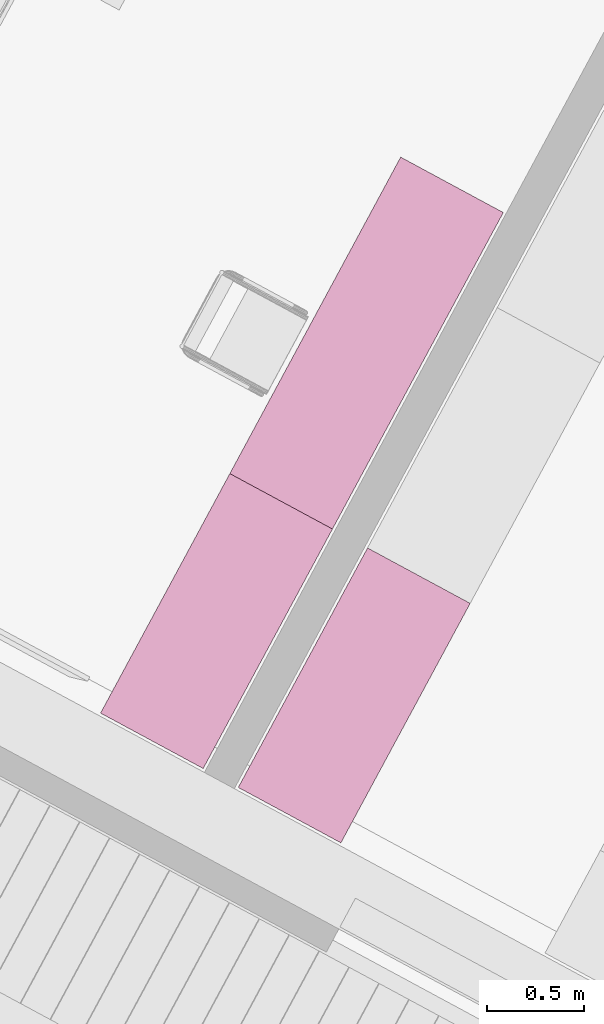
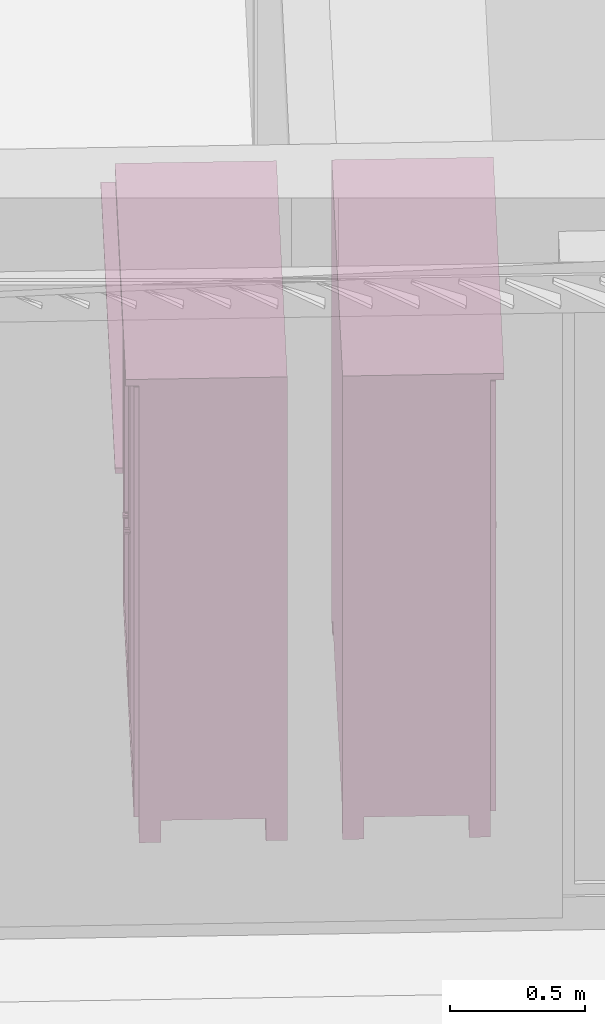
# One storey, part 29 of 41: 3 furnishings.
"""IFC2X3 building model written with IfcOpenShell, lengths in metres."""

from ifc_helpers import new_model, entity, si_unit, converted_unit, derived_unit, money_unit, direction, frame, origin_with_axes, place, context, subcontext, project, spatial, faceted_brep, type_object, element, save


model = new_model("IFC2X3")

# Units and contexts
model_context = context("Model", 3, precision=1e-05, world=origin_with_axes(), true_north=direction((0.0, 1.0)))
body_context = subcontext(model_context, "Body", "Model", "MODEL_VIEW")
ifc_project = project(units=[si_unit("LENGTHUNIT", "METRE"), si_unit("AREAUNIT", "SQUARE_METRE"), si_unit("VOLUMEUNIT", "CUBIC_METRE"), converted_unit("PLANEANGLEUNIT", "DEGREE", entity("IfcPlaneAngleMeasure", 0.0174532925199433), si_unit("PLANEANGLEUNIT", "RADIAN"), dimensions=[0, 0, 0, 0, 0, 0, 0]), money_unit("EUR"), converted_unit("TIMEUNIT", "Year", entity("IfcTimeMeasure", 31556926.0), si_unit("TIMEUNIT", "SECOND"), dimensions=[0, 0, 1, 0, 0, 0, 0]), si_unit("MASSUNIT", "GRAM", prefix="KILO"), si_unit("THERMODYNAMICTEMPERATUREUNIT", "DEGREE_CELSIUS"), si_unit("LUMINOUSINTENSITYUNIT", "LUMEN"), si_unit("ENERGYUNIT", "JOULE", prefix="MEGA"), derived_unit("THERMALCONDUCTANCEUNIT", [(si_unit("POWERUNIT", "WATT"), 1), (si_unit("LENGTHUNIT", "METRE"), -1), (si_unit("THERMODYNAMICTEMPERATUREUNIT", "KELVIN"), -1)]), derived_unit("SPECIFICHEATCAPACITYUNIT", [(si_unit("ENERGYUNIT", "JOULE"), 1), (si_unit("MASSUNIT", "GRAM", prefix="KILO"), -1), (si_unit("THERMODYNAMICTEMPERATUREUNIT", "KELVIN"), -1)]), derived_unit("MASSDENSITYUNIT", [(si_unit("MASSUNIT", "GRAM", prefix="KILO"), 1), (si_unit("VOLUMEUNIT", "CUBIC_METRE"), -1)])], contexts=[model_context])

# Site, building, storey
site_placement = place(None, frame((-3.949935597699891, 1.740105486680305, 0.0), z_axis=(0.0, 0.0, 1.0), x_axis=(0.8799804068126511, -0.475009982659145, 0.0)))
site = spatial("IfcSite", under=ifc_project, at=site_placement, Name="Gelände", CompositionType="ELEMENT")
building_placement = place(site_placement, origin_with_axes())
building = spatial("IfcBuilding", under=site, at=building_placement, Name="Gebäude", CompositionType="ELEMENT")
storey_placement = place(building_placement, frame((0.0, 0.0, 4.55), z_axis=(0.0, 0.0, 1.0), x_axis=(1.0, 0.0, 0.0)))
storey = spatial("IfcBuildingStorey", under=building, at=storey_placement, Name="Staffelgeschoss", CompositionType="ELEMENT", Elevation=4.55)

# Furnishings
furniture_type_1 = type_object("IfcFurnitureType", Name="Kleiderschrank 22", AssemblyPlace="NOTDEFINED")
furnishing_1_placement = place(storey_placement, frame((10.81819561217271, 3.039987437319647, 0.0), z_axis=(0.0, 0.0, 1.0), x_axis=(0.0, -1.0, 0.0)))
element("IfcFurnishingElement", 1, at=furnishing_1_placement, inside=storey, type_object=furniture_type_1, Name="Objekt-0066", ObjectType="FURNITURE", context=body_context, shape_type="Brep", body=[
    faceted_brep([(0.02000000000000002, 0.6000000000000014, 0.12), (0.02000000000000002, 0.5800000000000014, 0.12), (0.02000000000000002, 0.5800000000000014, 2.05), (0.02000000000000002, 0.6000000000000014, 2.05), (1.38, 0.6000000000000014, 0.12), (1.38, 0.5800000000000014, 0.12), (1.38, 0.5800000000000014, 2.05), (1.38, 0.6000000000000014, 2.05)], [[[0, 1, 2, 3]], [[0, 4, 5, 1]], [[1, 5, 6, 2]], [[3, 2, 6, 7]], [[4, 0, 3, 7]], [[5, 4, 7, 6]]]),
    faceted_brep([(1.4, 0.05000000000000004, 0.1), (1.38, 0.05000000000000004, 0.1), (1.38, 0.6000000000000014, 0.1), (1.4, 0.6000000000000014, 0.1), (1.4, 0.05000000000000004, 2.07), (1.38, 0.05000000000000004, 2.07), (1.38, 0.6000000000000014, 2.07), (1.4, 0.6000000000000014, 2.07)], [[[0, 1, 2, 3]], [[1, 0, 4, 5]], [[2, 1, 5, 6]], [[3, 2, 6, 7]], [[0, 3, 7, 4]], [[5, 4, 7, 6]]]),
    faceted_brep([(0.02, 0.05000000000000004, 0.1), (0.0, 0.05000000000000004, 0.1), (0.0, 0.6000000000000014, 0.1), (0.02, 0.6000000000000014, 0.1), (0.02, 0.05000000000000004, 2.07), (0.0, 0.05000000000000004, 2.07), (0.0, 0.6000000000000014, 2.07), (0.02, 0.6000000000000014, 2.07)], [[[0, 1, 2, 3]], [[1, 0, 4, 5]], [[2, 1, 5, 6]], [[3, 2, 6, 7]], [[0, 3, 7, 4]], [[5, 4, 7, 6]]]),
    faceted_brep([(1.38, 0.05000000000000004, 0.1), (0.02000000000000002, 0.05000000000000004, 0.1), (0.02000000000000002, 0.6000000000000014, 0.1), (1.38, 0.6000000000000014, 0.1), (1.38, 0.05000000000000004, 0.12), (0.02000000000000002, 0.05000000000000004, 0.12), (0.02000000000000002, 0.6000000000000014, 0.12), (1.38, 0.6000000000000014, 0.12)], [[[0, 1, 2, 3]], [[1, 0, 4, 5]], [[2, 1, 5, 6]], [[3, 2, 6, 7]], [[0, 3, 7, 4]], [[5, 4, 7, 6]]]),
    faceted_brep([(1.38, 0.05000000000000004, 2.05), (0.02000000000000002, 0.05000000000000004, 2.05), (0.02000000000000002, 0.6000000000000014, 2.05), (1.38, 0.6000000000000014, 2.05), (1.38, 0.05000000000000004, 2.07), (0.02000000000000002, 0.05000000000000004, 2.07), (0.02000000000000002, 0.6000000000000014, 2.07), (1.38, 0.6000000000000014, 2.07)], [[[0, 1, 2, 3]], [[1, 0, 4, 5]], [[2, 1, 5, 6]], [[3, 2, 6, 7]], [[0, 3, 7, 4]], [[5, 4, 7, 6]]]),
    faceted_brep([(1.4, 0.6000000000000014, 2.07), (1.4, 0.6000000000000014, 2.1), (1.4, 0.0, 2.1), (1.4, 0.0, 2.07), (0.0, 0.6000000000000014, 2.07), (0.0, 0.6000000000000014, 2.1), (0.0, 0.0, 2.1), (0.0, 0.0, 2.07)], [[[0, 1, 2, 3]], [[4, 5, 1, 0]], [[1, 5, 6, 2]], [[3, 2, 6, 7]], [[0, 3, 7, 4]], [[7, 6, 5, 4]]]),
    faceted_brep([(0.08000000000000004, 0.5200000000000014, 0.0), (0.08000000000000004, 0.6000000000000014, 0.0), (0.08000000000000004, 0.6000000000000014, 0.1), (0.08000000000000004, 0.5200000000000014, 0.1), (0.0, 0.5200000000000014, 0.0), (0.0, 0.6000000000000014, 0.0), (0.0, 0.6000000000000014, 0.1), (0.0, 0.5200000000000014, 0.1)], [[[0, 1, 2, 3]], [[0, 4, 5, 1]], [[1, 5, 6, 2]], [[3, 2, 6, 7]], [[4, 0, 3, 7]], [[5, 4, 7, 6]]]),
    faceted_brep([(1.4, 0.5200000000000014, 0.0), (1.4, 0.6000000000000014, 0.0), (1.4, 0.6000000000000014, 0.1), (1.4, 0.5200000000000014, 0.1), (1.32, 0.5200000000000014, 0.0), (1.32, 0.6000000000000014, 0.0), (1.32, 0.6000000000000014, 0.1), (1.32, 0.5200000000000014, 0.1)], [[[0, 1, 2, 3]], [[0, 4, 5, 1]], [[1, 5, 6, 2]], [[3, 2, 6, 7]], [[4, 0, 3, 7]], [[5, 4, 7, 6]]]),
    faceted_brep([(0.08000000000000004, 0.05000000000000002, 0.0), (0.08000000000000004, 0.13, 0.0), (0.08000000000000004, 0.13, 0.1), (0.08000000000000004, 0.05000000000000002, 0.1), (0.0, 0.05000000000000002, 0.0), (0.0, 0.13, 0.0), (0.0, 0.13, 0.1), (0.0, 0.05000000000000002, 0.1)], [[[0, 1, 2, 3]], [[0, 4, 5, 1]], [[1, 5, 6, 2]], [[3, 2, 6, 7]], [[4, 0, 3, 7]], [[5, 4, 7, 6]]]),
    faceted_brep([(1.4, 0.05000000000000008, 0.0), (1.4, 0.1300000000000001, 0.0), (1.4, 0.1300000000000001, 0.1), (1.4, 0.05000000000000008, 0.1), (1.32, 0.05000000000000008, 0.0), (1.32, 0.1300000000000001, 0.0), (1.32, 0.1300000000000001, 0.1), (1.32, 0.05000000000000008, 0.1)], [[[0, 1, 2, 3]], [[0, 4, 5, 1]], [[1, 5, 6, 2]], [[3, 2, 6, 7]], [[4, 0, 3, 7]], [[5, 4, 7, 6]]]),
    faceted_brep([(0.6995, 0.05, 0.1104999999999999), (0.6995, 0.05000000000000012, 2.0595), (0.6995, 0.03000000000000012, 2.0595), (0.6995, 0.03, 0.1104999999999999), (0.6695, 0.05, 0.1405), (0.6695, 0.05000000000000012, 2.0295), (0.6695, 0.03000000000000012, 2.0295), (0.6695, 0.03000000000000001, 0.1405)], [[[0, 1, 2, 3]], [[0, 4, 5, 1]], [[1, 5, 6, 2]], [[3, 2, 6, 7]], [[4, 0, 3, 7]], [[5, 4, 7, 6]]]),
    faceted_brep([(0.04049999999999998, 0.05, 0.1405), (0.04049999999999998, 0.05000000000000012, 2.0295), (0.04049999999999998, 0.03000000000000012, 2.0295), (0.04049999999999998, 0.03000000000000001, 0.1405), (0.01050000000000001, 0.05, 0.1104999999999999), (0.01050000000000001, 0.05000000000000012, 2.0595), (0.01050000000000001, 0.03000000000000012, 2.0595), (0.01050000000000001, 0.03, 0.1104999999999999)], [[[0, 1, 2, 3]], [[0, 4, 5, 1]], [[1, 5, 6, 2]], [[3, 2, 6, 7]], [[4, 0, 3, 7]], [[5, 4, 7, 6]]]),
    faceted_brep([(0.01050000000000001, 0.05, 0.1104999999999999), (0.6995, 0.05, 0.1104999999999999), (0.6995, 0.03, 0.1104999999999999), (0.01050000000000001, 0.03, 0.1104999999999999), (0.04049999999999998, 0.05, 0.1405), (0.6695, 0.05, 0.1405), (0.6695, 0.03000000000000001, 0.1405), (0.04049999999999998, 0.03000000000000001, 0.1405)], [[[0, 1, 2, 3]], [[0, 4, 5, 1]], [[1, 5, 6, 2]], [[3, 2, 6, 7]], [[4, 0, 3, 7]], [[5, 4, 7, 6]]]),
    faceted_brep([(0.04049999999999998, 0.05000000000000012, 2.0295), (0.6695, 0.05000000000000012, 2.0295), (0.6695, 0.03000000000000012, 2.0295), (0.04049999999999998, 0.03000000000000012, 2.0295), (0.01050000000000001, 0.05000000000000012, 2.0595), (0.6995, 0.05000000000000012, 2.0595), (0.6995, 0.03000000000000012, 2.0595), (0.01050000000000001, 0.03000000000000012, 2.0595)], [[[0, 1, 2, 3]], [[0, 4, 5, 1]], [[1, 5, 6, 2]], [[3, 2, 6, 7]], [[4, 0, 3, 7]], [[5, 4, 7, 6]]]),
    faceted_brep([(0.6695, 0.04500000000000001, 0.1405), (0.6695, 0.04500000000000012, 2.0295), (0.6695, 0.03500000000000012, 2.0295), (0.6695, 0.035, 0.1405), (0.04049999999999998, 0.04500000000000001, 0.1405), (0.04049999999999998, 0.04500000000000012, 2.0295), (0.04049999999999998, 0.03500000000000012, 2.0295), (0.04049999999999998, 0.035, 0.1405)], [[[0, 1, 2, 3]], [[0, 4, 5, 1]], [[1, 5, 6, 2]], [[3, 2, 6, 7]], [[4, 0, 3, 7]], [[5, 4, 7, 6]]]),
    faceted_brep([(0.6593923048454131, 0.035, 0.954), (0.6549999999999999, 0.035, 0.9496076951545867), (0.6489999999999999, 0.035, 0.948), (0.6429999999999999, 0.035, 0.9496076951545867), (0.6386076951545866, 0.035, 0.954), (0.6369999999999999, 0.035, 0.96), (0.6386076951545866, 0.035, 0.966), (0.6429999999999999, 0.035, 0.9703923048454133), (0.6489999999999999, 0.035, 0.972), (0.6549999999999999, 0.035, 0.9703923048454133), (0.6593923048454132, 0.035, 0.966), (0.6609999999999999, 0.035, 0.96), (0.6593923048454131, 0.01, 0.954), (0.6549999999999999, 0.01, 0.9496076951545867), (0.6489999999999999, 0.01, 0.948), (0.6429999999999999, 0.01, 0.9496076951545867), (0.6386076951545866, 0.01, 0.954), (0.6369999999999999, 0.01, 0.96), (0.6386076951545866, 0.01, 0.966), (0.6429999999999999, 0.01, 0.9703923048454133), (0.6489999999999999, 0.01, 0.972), (0.6549999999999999, 0.01, 0.9703923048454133), (0.6593923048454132, 0.01, 0.966), (0.6609999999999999, 0.01, 0.96)], [[[0, 1, 2, 3, 4, 5, 6, 7, 8, 9, 10, 11]], [[1, 0, 12, 13]], [[2, 1, 13, 14]], [[3, 2, 14, 15]], [[4, 3, 15, 16]], [[5, 4, 16, 17]], [[6, 5, 17, 18]], [[7, 6, 18, 19]], [[8, 7, 19, 20]], [[9, 8, 20, 21]], [[10, 9, 21, 22]], [[11, 10, 22, 23]], [[0, 11, 23, 12]], [[12, 23, 22, 21, 20, 19, 18, 17, 16, 15, 14, 13]]]),
    faceted_brep([(1.3905, 0.05, 0.1104999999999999), (1.3905, 0.05000000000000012, 2.0595), (1.3905, 0.03000000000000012, 2.0595), (1.3905, 0.03, 0.1104999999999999), (1.3605, 0.05, 0.1405), (1.3605, 0.05000000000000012, 2.0295), (1.3605, 0.03000000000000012, 2.0295), (1.3605, 0.03000000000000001, 0.1405)], [[[0, 1, 2, 3]], [[0, 4, 5, 1]], [[1, 5, 6, 2]], [[3, 2, 6, 7]], [[4, 0, 3, 7]], [[5, 4, 7, 6]]]),
    faceted_brep([(0.7315, 0.05, 0.1405), (0.7315, 0.05000000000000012, 2.0295), (0.7315, 0.03000000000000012, 2.0295), (0.7315, 0.03000000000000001, 0.1405), (0.7015, 0.05, 0.1104999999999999), (0.7015, 0.05000000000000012, 2.0595), (0.7015, 0.03000000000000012, 2.0595), (0.7015, 0.03, 0.1104999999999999)], [[[0, 1, 2, 3]], [[0, 4, 5, 1]], [[1, 5, 6, 2]], [[3, 2, 6, 7]], [[4, 0, 3, 7]], [[5, 4, 7, 6]]]),
    faceted_brep([(0.7015, 0.05, 0.1104999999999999), (1.3905, 0.05, 0.1104999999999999), (1.3905, 0.03, 0.1104999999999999), (0.7015, 0.03, 0.1104999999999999), (0.7315, 0.05, 0.1405), (1.3605, 0.05, 0.1405), (1.3605, 0.03000000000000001, 0.1405), (0.7315, 0.03000000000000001, 0.1405)], [[[0, 1, 2, 3]], [[0, 4, 5, 1]], [[1, 5, 6, 2]], [[3, 2, 6, 7]], [[4, 0, 3, 7]], [[5, 4, 7, 6]]]),
    faceted_brep([(0.7315, 0.05000000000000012, 2.0295), (1.3605, 0.05000000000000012, 2.0295), (1.3605, 0.03000000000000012, 2.0295), (0.7315, 0.03000000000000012, 2.0295), (0.7015, 0.05000000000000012, 2.0595), (1.3905, 0.05000000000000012, 2.0595), (1.3905, 0.03000000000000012, 2.0595), (0.7015, 0.03000000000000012, 2.0595)], [[[0, 1, 2, 3]], [[0, 4, 5, 1]], [[1, 5, 6, 2]], [[3, 2, 6, 7]], [[4, 0, 3, 7]], [[5, 4, 7, 6]]]),
    faceted_brep([(1.3605, 0.04500000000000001, 0.1405), (1.3605, 0.04500000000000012, 2.0295), (1.3605, 0.04000000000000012, 2.0295), (1.3605, 0.04000000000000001, 0.1405), (0.7315, 0.04500000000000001, 0.1405), (0.7315, 0.04500000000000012, 2.0295), (0.7315, 0.04000000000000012, 2.0295), (0.7315, 0.04000000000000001, 0.1405)], [[[0, 1, 2, 3]], [[0, 4, 5, 1]], [[1, 5, 6, 2]], [[3, 2, 6, 7]], [[4, 0, 3, 7]], [[5, 4, 7, 6]]]),
    faceted_brep([(1.3605, 0.04000000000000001, 0.1405), (1.3605, 0.04000000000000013, 2.0295), (1.3605, 0.03500000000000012, 2.0295), (1.3605, 0.03500000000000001, 0.1405), (0.7315, 0.04000000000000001, 0.1405), (0.7315, 0.04000000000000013, 2.0295), (0.7315, 0.03500000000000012, 2.0295), (0.7315, 0.03500000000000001, 0.1405)], [[[0, 1, 2, 3]], [[0, 4, 5, 1]], [[1, 5, 6, 2]], [[3, 2, 6, 7]], [[4, 0, 3, 7]], [[5, 4, 7, 6]]]),
    faceted_brep([(0.7406076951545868, 0.035, 0.954), (0.739, 0.035, 0.96), (0.7406076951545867, 0.035, 0.966), (0.745, 0.035, 0.9703923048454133), (0.751, 0.035, 0.972), (0.757, 0.035, 0.9703923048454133), (0.7613923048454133, 0.035, 0.966), (0.763, 0.035, 0.96), (0.7613923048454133, 0.035, 0.954), (0.757, 0.035, 0.9496076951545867), (0.751, 0.035, 0.948), (0.745, 0.035, 0.9496076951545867), (0.7406076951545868, 0.01, 0.954), (0.739, 0.01, 0.96), (0.7406076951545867, 0.01, 0.966), (0.745, 0.01, 0.9703923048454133), (0.751, 0.01, 0.972), (0.757, 0.01, 0.9703923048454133), (0.7613923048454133, 0.01, 0.966), (0.763, 0.01, 0.96), (0.7613923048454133, 0.01, 0.954), (0.757, 0.01, 0.9496076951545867), (0.751, 0.01, 0.948), (0.745, 0.01, 0.9496076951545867)], [[[0, 1, 2, 3, 4, 5, 6, 7, 8, 9, 10, 11]], [[0, 12, 13, 1]], [[1, 13, 14, 2]], [[2, 14, 15, 3]], [[3, 15, 16, 4]], [[4, 16, 17, 5]], [[5, 17, 18, 6]], [[6, 18, 19, 7]], [[7, 19, 20, 8]], [[8, 20, 21, 9]], [[9, 21, 22, 10]], [[10, 22, 23, 11]], [[11, 23, 12, 0]], [[12, 23, 22, 21, 20, 19, 18, 17, 16, 15, 14, 13]]]),
])
furnishing_2_placement = place(storey_placement, frame((12.22319561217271, 3.039987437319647, 0.0), z_axis=(0.0, 0.0, 1.0), x_axis=(0.0, 1.0, 0.0)))
element("IfcFurnishingElement", 2, at=furnishing_2_placement, inside=storey, type_object=furniture_type_1, Name="Objekt-0066", ObjectType="FURNITURE", context=body_context, shape_type="Brep", body=[
    faceted_brep([(-0.02000000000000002, 0.6000000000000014, 0.12), (-0.02000000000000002, 0.6000000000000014, 2.05), (-0.02000000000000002, 0.5800000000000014, 2.05), (-0.02000000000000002, 0.5800000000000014, 0.12), (-1.38, 0.6000000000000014, 0.12), (-1.38, 0.6000000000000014, 2.05), (-1.38, 0.5800000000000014, 2.05), (-1.38, 0.5800000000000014, 0.12)], [[[0, 1, 2, 3]], [[4, 5, 1, 0]], [[1, 5, 6, 2]], [[3, 2, 6, 7]], [[0, 3, 7, 4]], [[7, 6, 5, 4]]]),
    faceted_brep([(-1.4, 0.05000000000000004, 0.1), (-1.4, 0.6000000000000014, 0.1), (-1.38, 0.6000000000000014, 0.1), (-1.38, 0.05000000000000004, 0.1), (-1.4, 0.05000000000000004, 2.07), (-1.4, 0.6000000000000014, 2.07), (-1.38, 0.6000000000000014, 2.07), (-1.38, 0.05000000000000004, 2.07)], [[[0, 1, 2, 3]], [[0, 4, 5, 1]], [[1, 5, 6, 2]], [[2, 6, 7, 3]], [[3, 7, 4, 0]], [[7, 6, 5, 4]]]),
    faceted_brep([(-0.02, 0.05000000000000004, 0.1), (-0.02, 0.6000000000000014, 0.1), (0.0, 0.6000000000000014, 0.1), (0.0, 0.05000000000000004, 0.1), (-0.02, 0.05000000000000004, 2.07), (-0.02, 0.6000000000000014, 2.07), (0.0, 0.6000000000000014, 2.07), (0.0, 0.05000000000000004, 2.07)], [[[0, 1, 2, 3]], [[0, 4, 5, 1]], [[1, 5, 6, 2]], [[2, 6, 7, 3]], [[3, 7, 4, 0]], [[7, 6, 5, 4]]]),
    faceted_brep([(-1.38, 0.05000000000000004, 0.1), (-1.38, 0.6000000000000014, 0.1), (-0.02000000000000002, 0.6000000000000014, 0.1), (-0.02000000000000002, 0.05000000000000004, 0.1), (-1.38, 0.05000000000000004, 0.12), (-1.38, 0.6000000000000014, 0.12), (-0.02000000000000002, 0.6000000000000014, 0.12), (-0.02000000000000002, 0.05000000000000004, 0.12)], [[[0, 1, 2, 3]], [[0, 4, 5, 1]], [[1, 5, 6, 2]], [[2, 6, 7, 3]], [[3, 7, 4, 0]], [[7, 6, 5, 4]]]),
    faceted_brep([(-1.38, 0.05000000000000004, 2.05), (-1.38, 0.6000000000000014, 2.05), (-0.02000000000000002, 0.6000000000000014, 2.05), (-0.02000000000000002, 0.05000000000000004, 2.05), (-1.38, 0.05000000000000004, 2.07), (-1.38, 0.6000000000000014, 2.07), (-0.02000000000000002, 0.6000000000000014, 2.07), (-0.02000000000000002, 0.05000000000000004, 2.07)], [[[0, 1, 2, 3]], [[0, 4, 5, 1]], [[1, 5, 6, 2]], [[2, 6, 7, 3]], [[3, 7, 4, 0]], [[7, 6, 5, 4]]]),
    faceted_brep([(-1.4, 0.6000000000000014, 2.07), (-1.4, 0.0, 2.07), (-1.4, 0.0, 2.1), (-1.4, 0.6000000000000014, 2.1), (0.0, 0.6000000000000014, 2.07), (0.0, 0.0, 2.07), (0.0, 0.0, 2.1), (0.0, 0.6000000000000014, 2.1)], [[[0, 1, 2, 3]], [[0, 4, 5, 1]], [[1, 5, 6, 2]], [[3, 2, 6, 7]], [[4, 0, 3, 7]], [[5, 4, 7, 6]]]),
    faceted_brep([(-0.08000000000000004, 0.5200000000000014, 0.0), (-0.08000000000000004, 0.5200000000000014, 0.1), (-0.08000000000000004, 0.6000000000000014, 0.1), (-0.08000000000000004, 0.6000000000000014, 0.0), (0.0, 0.5200000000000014, 0.0), (0.0, 0.5200000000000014, 0.1), (0.0, 0.6000000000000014, 0.1), (0.0, 0.6000000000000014, 0.0)], [[[0, 1, 2, 3]], [[4, 5, 1, 0]], [[1, 5, 6, 2]], [[3, 2, 6, 7]], [[0, 3, 7, 4]], [[7, 6, 5, 4]]]),
    faceted_brep([(-1.4, 0.5200000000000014, 0.0), (-1.4, 0.5200000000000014, 0.1), (-1.4, 0.6000000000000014, 0.1), (-1.4, 0.6000000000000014, 0.0), (-1.32, 0.5200000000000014, 0.0), (-1.32, 0.5200000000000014, 0.1), (-1.32, 0.6000000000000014, 0.1), (-1.32, 0.6000000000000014, 0.0)], [[[0, 1, 2, 3]], [[4, 5, 1, 0]], [[1, 5, 6, 2]], [[3, 2, 6, 7]], [[0, 3, 7, 4]], [[7, 6, 5, 4]]]),
    faceted_brep([(-0.08000000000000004, 0.05000000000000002, 0.0), (-0.08000000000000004, 0.05000000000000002, 0.1), (-0.08000000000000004, 0.13, 0.1), (-0.08000000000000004, 0.13, 0.0), (0.0, 0.05000000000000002, 0.0), (0.0, 0.05000000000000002, 0.1), (0.0, 0.13, 0.1), (0.0, 0.13, 0.0)], [[[0, 1, 2, 3]], [[4, 5, 1, 0]], [[1, 5, 6, 2]], [[3, 2, 6, 7]], [[0, 3, 7, 4]], [[7, 6, 5, 4]]]),
    faceted_brep([(-1.4, 0.05000000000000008, 0.0), (-1.4, 0.05000000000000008, 0.1), (-1.4, 0.1300000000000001, 0.1), (-1.4, 0.1300000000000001, 0.0), (-1.32, 0.05000000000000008, 0.0), (-1.32, 0.05000000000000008, 0.1), (-1.32, 0.1300000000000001, 0.1), (-1.32, 0.1300000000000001, 0.0)], [[[0, 1, 2, 3]], [[4, 5, 1, 0]], [[1, 5, 6, 2]], [[3, 2, 6, 7]], [[0, 3, 7, 4]], [[7, 6, 5, 4]]]),
    faceted_brep([(-0.6995000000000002, 0.05, 0.1104999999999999), (-0.6995000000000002, 0.03, 0.1104999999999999), (-0.6995000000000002, 0.03000000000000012, 2.0595), (-0.6995000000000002, 0.05000000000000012, 2.0595), (-0.6695000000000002, 0.05, 0.1405), (-0.6695000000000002, 0.03000000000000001, 0.1405), (-0.6695000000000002, 0.03000000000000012, 2.0295), (-0.6695000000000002, 0.05000000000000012, 2.0295)], [[[0, 1, 2, 3]], [[4, 5, 1, 0]], [[1, 5, 6, 2]], [[3, 2, 6, 7]], [[0, 3, 7, 4]], [[7, 6, 5, 4]]]),
    faceted_brep([(-0.04049999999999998, 0.05, 0.1405), (-0.04049999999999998, 0.03000000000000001, 0.1405), (-0.04049999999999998, 0.03000000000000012, 2.0295), (-0.04049999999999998, 0.05000000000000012, 2.0295), (-0.01050000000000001, 0.05, 0.1104999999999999), (-0.01050000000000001, 0.03, 0.1104999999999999), (-0.01050000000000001, 0.03000000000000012, 2.0595), (-0.01050000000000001, 0.05000000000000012, 2.0595)], [[[0, 1, 2, 3]], [[4, 5, 1, 0]], [[1, 5, 6, 2]], [[3, 2, 6, 7]], [[0, 3, 7, 4]], [[7, 6, 5, 4]]]),
    faceted_brep([(-0.01050000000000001, 0.05, 0.1104999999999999), (-0.01050000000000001, 0.03, 0.1104999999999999), (-0.6995000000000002, 0.03, 0.1104999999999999), (-0.6995000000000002, 0.05, 0.1104999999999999), (-0.04049999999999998, 0.05, 0.1405), (-0.04049999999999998, 0.03000000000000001, 0.1405), (-0.6695000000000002, 0.03000000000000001, 0.1405), (-0.6695000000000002, 0.05, 0.1405)], [[[0, 1, 2, 3]], [[4, 5, 1, 0]], [[1, 5, 6, 2]], [[3, 2, 6, 7]], [[0, 3, 7, 4]], [[7, 6, 5, 4]]]),
    faceted_brep([(-0.04049999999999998, 0.05000000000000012, 2.0295), (-0.04049999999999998, 0.03000000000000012, 2.0295), (-0.6695000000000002, 0.03000000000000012, 2.0295), (-0.6695000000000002, 0.05000000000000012, 2.0295), (-0.01050000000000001, 0.05000000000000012, 2.0595), (-0.01050000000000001, 0.03000000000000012, 2.0595), (-0.6995000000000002, 0.03000000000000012, 2.0595), (-0.6995000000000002, 0.05000000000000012, 2.0595)], [[[0, 1, 2, 3]], [[4, 5, 1, 0]], [[1, 5, 6, 2]], [[3, 2, 6, 7]], [[0, 3, 7, 4]], [[7, 6, 5, 4]]]),
    faceted_brep([(-0.6695000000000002, 0.04500000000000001, 0.1405), (-0.6695000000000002, 0.035, 0.1405), (-0.6695000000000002, 0.03500000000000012, 2.0295), (-0.6695000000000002, 0.04500000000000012, 2.0295), (-0.04049999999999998, 0.04500000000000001, 0.1405), (-0.04049999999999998, 0.035, 0.1405), (-0.04049999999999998, 0.03500000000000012, 2.0295), (-0.04049999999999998, 0.04500000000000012, 2.0295)], [[[0, 1, 2, 3]], [[4, 5, 1, 0]], [[1, 5, 6, 2]], [[3, 2, 6, 7]], [[0, 3, 7, 4]], [[7, 6, 5, 4]]]),
    faceted_brep([(-0.6593923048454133, 0.035, 0.954), (-0.6610000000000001, 0.035, 0.96), (-0.6593923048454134, 0.035, 0.966), (-0.6550000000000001, 0.035, 0.9703923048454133), (-0.6490000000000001, 0.035, 0.972), (-0.6430000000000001, 0.035, 0.9703923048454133), (-0.6386076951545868, 0.035, 0.966), (-0.6370000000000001, 0.035, 0.96), (-0.6386076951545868, 0.035, 0.954), (-0.6430000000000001, 0.035, 0.9496076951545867), (-0.6490000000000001, 0.035, 0.948), (-0.6550000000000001, 0.035, 0.9496076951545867), (-0.6593923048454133, 0.01, 0.954), (-0.6610000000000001, 0.01, 0.96), (-0.6593923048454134, 0.01, 0.966), (-0.6550000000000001, 0.01, 0.9703923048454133), (-0.6490000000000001, 0.01, 0.972), (-0.6430000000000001, 0.01, 0.9703923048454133), (-0.6386076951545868, 0.01, 0.966), (-0.6370000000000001, 0.01, 0.96), (-0.6386076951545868, 0.01, 0.954), (-0.6430000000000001, 0.01, 0.9496076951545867), (-0.6490000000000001, 0.01, 0.948), (-0.6550000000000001, 0.01, 0.9496076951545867)], [[[0, 1, 2, 3, 4, 5, 6, 7, 8, 9, 10, 11]], [[0, 12, 13, 1]], [[1, 13, 14, 2]], [[2, 14, 15, 3]], [[3, 15, 16, 4]], [[4, 16, 17, 5]], [[5, 17, 18, 6]], [[6, 18, 19, 7]], [[7, 19, 20, 8]], [[8, 20, 21, 9]], [[9, 21, 22, 10]], [[10, 22, 23, 11]], [[11, 23, 12, 0]], [[12, 23, 22, 21, 20, 19, 18, 17, 16, 15, 14, 13]]]),
    faceted_brep([(-1.3905, 0.05, 0.1104999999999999), (-1.3905, 0.03, 0.1104999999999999), (-1.3905, 0.03000000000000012, 2.0595), (-1.3905, 0.05000000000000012, 2.0595), (-1.3605, 0.05, 0.1405), (-1.3605, 0.03000000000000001, 0.1405), (-1.3605, 0.03000000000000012, 2.0295), (-1.3605, 0.05000000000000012, 2.0295)], [[[0, 1, 2, 3]], [[4, 5, 1, 0]], [[1, 5, 6, 2]], [[3, 2, 6, 7]], [[0, 3, 7, 4]], [[7, 6, 5, 4]]]),
    faceted_brep([(-0.7315000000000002, 0.05, 0.1405), (-0.7315000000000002, 0.03000000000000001, 0.1405), (-0.7315000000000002, 0.03000000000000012, 2.0295), (-0.7315000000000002, 0.05000000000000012, 2.0295), (-0.7015000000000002, 0.05, 0.1104999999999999), (-0.7015000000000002, 0.03, 0.1104999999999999), (-0.7015000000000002, 0.03000000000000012, 2.0595), (-0.7015000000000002, 0.05000000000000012, 2.0595)], [[[0, 1, 2, 3]], [[4, 5, 1, 0]], [[1, 5, 6, 2]], [[3, 2, 6, 7]], [[0, 3, 7, 4]], [[7, 6, 5, 4]]]),
    faceted_brep([(-0.7015000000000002, 0.05, 0.1104999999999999), (-0.7015000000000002, 0.03, 0.1104999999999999), (-1.3905, 0.03, 0.1104999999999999), (-1.3905, 0.05, 0.1104999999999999), (-0.7315000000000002, 0.05, 0.1405), (-0.7315000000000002, 0.03000000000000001, 0.1405), (-1.3605, 0.03000000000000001, 0.1405), (-1.3605, 0.05, 0.1405)], [[[0, 1, 2, 3]], [[4, 5, 1, 0]], [[1, 5, 6, 2]], [[3, 2, 6, 7]], [[0, 3, 7, 4]], [[7, 6, 5, 4]]]),
    faceted_brep([(-0.7315000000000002, 0.05000000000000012, 2.0295), (-0.7315000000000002, 0.03000000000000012, 2.0295), (-1.3605, 0.03000000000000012, 2.0295), (-1.3605, 0.05000000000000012, 2.0295), (-0.7015000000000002, 0.05000000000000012, 2.0595), (-0.7015000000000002, 0.03000000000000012, 2.0595), (-1.3905, 0.03000000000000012, 2.0595), (-1.3905, 0.05000000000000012, 2.0595)], [[[0, 1, 2, 3]], [[4, 5, 1, 0]], [[1, 5, 6, 2]], [[3, 2, 6, 7]], [[0, 3, 7, 4]], [[7, 6, 5, 4]]]),
    faceted_brep([(-1.3605, 0.04500000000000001, 0.1405), (-1.3605, 0.04000000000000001, 0.1405), (-1.3605, 0.04000000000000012, 2.0295), (-1.3605, 0.04500000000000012, 2.0295), (-0.7315000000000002, 0.04500000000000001, 0.1405), (-0.7315000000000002, 0.04000000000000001, 0.1405), (-0.7315000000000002, 0.04000000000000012, 2.0295), (-0.7315000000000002, 0.04500000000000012, 2.0295)], [[[0, 1, 2, 3]], [[4, 5, 1, 0]], [[1, 5, 6, 2]], [[3, 2, 6, 7]], [[0, 3, 7, 4]], [[7, 6, 5, 4]]]),
    faceted_brep([(-1.3605, 0.04000000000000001, 0.1405), (-1.3605, 0.03500000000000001, 0.1405), (-1.3605, 0.03500000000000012, 2.0295), (-1.3605, 0.04000000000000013, 2.0295), (-0.7315000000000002, 0.04000000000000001, 0.1405), (-0.7315000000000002, 0.03500000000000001, 0.1405), (-0.7315000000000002, 0.03500000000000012, 2.0295), (-0.7315000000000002, 0.04000000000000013, 2.0295)], [[[0, 1, 2, 3]], [[4, 5, 1, 0]], [[1, 5, 6, 2]], [[3, 2, 6, 7]], [[0, 3, 7, 4]], [[7, 6, 5, 4]]]),
    faceted_brep([(-0.740607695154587, 0.035, 0.954), (-0.7450000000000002, 0.035, 0.9496076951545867), (-0.7510000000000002, 0.035, 0.948), (-0.7570000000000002, 0.035, 0.9496076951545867), (-0.7613923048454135, 0.035, 0.954), (-0.7630000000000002, 0.035, 0.96), (-0.7613923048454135, 0.035, 0.966), (-0.7570000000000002, 0.035, 0.9703923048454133), (-0.7510000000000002, 0.035, 0.972), (-0.7450000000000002, 0.035, 0.9703923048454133), (-0.7406076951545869, 0.035, 0.966), (-0.7390000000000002, 0.035, 0.96), (-0.740607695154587, 0.01, 0.954), (-0.7450000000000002, 0.01, 0.9496076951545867), (-0.7510000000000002, 0.01, 0.948), (-0.7570000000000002, 0.01, 0.9496076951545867), (-0.7613923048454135, 0.01, 0.954), (-0.7630000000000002, 0.01, 0.96), (-0.7613923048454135, 0.01, 0.966), (-0.7570000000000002, 0.01, 0.9703923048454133), (-0.7510000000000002, 0.01, 0.972), (-0.7450000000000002, 0.01, 0.9703923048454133), (-0.7406076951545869, 0.01, 0.966), (-0.7390000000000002, 0.01, 0.96)], [[[0, 1, 2, 3, 4, 5, 6, 7, 8, 9, 10, 11]], [[1, 0, 12, 13]], [[2, 1, 13, 14]], [[3, 2, 14, 15]], [[4, 3, 15, 16]], [[5, 4, 16, 17]], [[6, 5, 17, 18]], [[7, 6, 18, 19]], [[8, 7, 19, 20]], [[9, 8, 20, 21]], [[10, 9, 21, 22]], [[11, 10, 22, 23]], [[0, 11, 23, 12]], [[12, 23, 22, 21, 20, 19, 18, 17, 16, 15, 14, 13]]]),
])
furniture_type_2 = type_object("IfcFurnitureType", Name="Schreibtisch 22", AssemblyPlace="NOTDEFINED")
furnishing_3_placement = place(storey_placement, frame((10.81819561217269, 3.039987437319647, 0.0), z_axis=(0.0, 0.0, 1.0), x_axis=(0.0, -1.0, 0.0)))
element("IfcFurnishingElement", 3, at=furnishing_3_placement, inside=storey, type_object=furniture_type_2, Name="Objekt-0068", ObjectType="FURNITURE", context=body_context, shape_type="Brep", body=[
    faceted_brep([(-0.02, 0.1500000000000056, 0.0), (-0.02, 0.6000000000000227, 0.0), (0.0, 0.6000000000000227, 0.0), (0.0, 0.1500000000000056, 0.0), (-0.02, 0.1500000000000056, 0.695), (-0.02, 0.6000000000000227, 0.695), (0.0, 0.6000000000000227, 0.695), (0.0, 0.1500000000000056, 0.695)], [[[0, 1, 2, 3]], [[0, 4, 5, 1]], [[1, 5, 6, 2]], [[2, 6, 7, 3]], [[3, 7, 4, 0]], [[7, 6, 5, 4]]]),
    faceted_brep([(-1.85, 0.1500000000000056, 0.0), (-1.85, 0.6000000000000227, 0.0), (-1.83, 0.6000000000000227, 0.0), (-1.83, 0.1500000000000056, 0.0), (-1.85, 0.1500000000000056, 0.695), (-1.85, 0.6000000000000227, 0.695), (-1.83, 0.6000000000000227, 0.695), (-1.83, 0.1500000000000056, 0.695)], [[[0, 1, 2, 3]], [[0, 4, 5, 1]], [[1, 5, 6, 2]], [[2, 6, 7, 3]], [[3, 7, 4, 0]], [[7, 6, 5, 4]]]),
    faceted_brep([(-1.85, 0.0, 0.695), (-1.85, 0.6000000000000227, 0.695), (0.0, 0.6000000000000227, 0.695), (0.0, 0.0, 0.695), (-1.85, 0.0, 0.72), (-1.85, 0.6000000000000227, 0.72), (0.0, 0.6000000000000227, 0.72), (0.0, 0.0, 0.72)], [[[0, 1, 2, 3]], [[0, 4, 5, 1]], [[1, 5, 6, 2]], [[2, 6, 7, 3]], [[3, 7, 4, 0]], [[7, 6, 5, 4]]]),
    faceted_brep([(-1.83, 0.5800000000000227, 0.36), (-1.83, 0.6000000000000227, 0.36), (-0.02000000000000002, 0.6000000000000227, 0.36), (-0.02000000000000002, 0.5800000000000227, 0.36), (-1.83, 0.5800000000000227, 0.6950000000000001), (-1.83, 0.6000000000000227, 0.6950000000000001), (-0.02000000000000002, 0.6000000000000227, 0.6950000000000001), (-0.02000000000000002, 0.5800000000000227, 0.6950000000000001)], [[[0, 1, 2, 3]], [[0, 4, 5, 1]], [[1, 5, 6, 2]], [[2, 6, 7, 3]], [[3, 7, 4, 0]], [[7, 6, 5, 4]]]),
])

save(model, "model.ifc")
